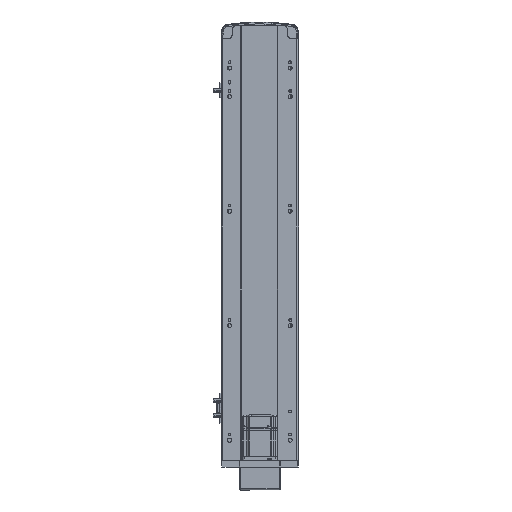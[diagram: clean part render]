
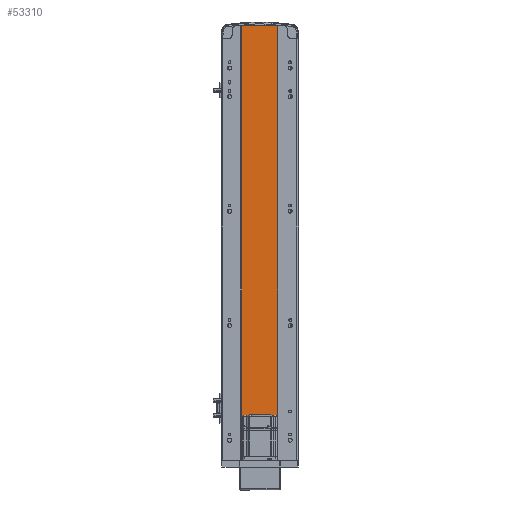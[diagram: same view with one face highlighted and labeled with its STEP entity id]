
A CAD part, front view. The second image highlights one B-rep face of the part: STEP entity #53310.
In plain terms, the highlighted planar face has unit normal (0, -1, 0).
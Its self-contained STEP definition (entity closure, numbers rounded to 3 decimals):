
#625 = VECTOR ( 'NONE', #13084, 1000. ) ;
#4977 = CARTESIAN_POINT ( 'NONE',  ( -32., 1., 0. ) ) ;
#6230 = LINE ( 'NONE', #4977, #625 ) ;
#7583 = VERTEX_POINT ( 'NONE', #28047 ) ;
#11243 = LINE ( 'NONE', #12385, #36284 ) ;
#11684 = EDGE_CURVE ( 'NONE', #7583, #13747, #6230, .T. ) ;
#12385 = CARTESIAN_POINT ( 'NONE',  ( -32., 1., 759. ) ) ;
#12706 = LINE ( 'NONE', #45837, #50248 ) ;
#13084 = DIRECTION ( 'NONE',  ( 1., 0., 0. ) ) ;
#13747 = VERTEX_POINT ( 'NONE', #31728 ) ;
#15433 = DIRECTION ( 'NONE',  ( 0., 1., 0. ) ) ;
#16806 = CARTESIAN_POINT ( 'NONE',  ( -32., 1., 759. ) ) ;
#16893 = VECTOR ( 'NONE', #47886, 1000. ) ;
#18932 = EDGE_CURVE ( 'NONE', #49795, #48637, #54458, .T. ) ;
#20739 = DIRECTION ( 'NONE',  ( 0., 0., -1. ) ) ;
#22635 = DIRECTION ( 'NONE',  ( 0., 0., -1. ) ) ;
#23215 = EDGE_LOOP ( 'NONE', ( #31219, #46378, #49421, #47841 ) ) ;
#25942 = FACE_OUTER_BOUND ( 'NONE', #23215, .T. ) ;
#28047 = CARTESIAN_POINT ( 'NONE',  ( -32., 1., 0. ) ) ;
#28988 = CARTESIAN_POINT ( 'NONE',  ( -32., 1., 759. ) ) ;
#31219 = ORIENTED_EDGE ( 'NONE', *, *, #11684, .T. ) ;
#31728 = CARTESIAN_POINT ( 'NONE',  ( 30., 1., 0. ) ) ;
#33959 = AXIS2_PLACEMENT_3D ( 'NONE', #28988, #15433, #41658 ) ;
#34263 = CARTESIAN_POINT ( 'NONE',  ( 30., 1., 759. ) ) ;
#36284 = VECTOR ( 'NONE', #20739, 1000. ) ;
#40419 = EDGE_CURVE ( 'NONE', #49795, #7583, #11243, .T. ) ;
#41658 = DIRECTION ( 'NONE',  ( -1., 0., 0. ) ) ;
#45837 = CARTESIAN_POINT ( 'NONE',  ( 30., 1., 759. ) ) ;
#46378 = ORIENTED_EDGE ( 'NONE', *, *, #50099, .F. ) ;
#47841 = ORIENTED_EDGE ( 'NONE', *, *, #40419, .T. ) ;
#47886 = DIRECTION ( 'NONE',  ( 1., 0., 0. ) ) ;
#48637 = VERTEX_POINT ( 'NONE', #34263 ) ;
#48683 = CARTESIAN_POINT ( 'NONE',  ( -32., 1., 759. ) ) ;
#49421 = ORIENTED_EDGE ( 'NONE', *, *, #18932, .F. ) ;
#49795 = VERTEX_POINT ( 'NONE', #48683 ) ;
#50099 = EDGE_CURVE ( 'NONE', #48637, #13747, #12706, .T. ) ;
#50248 = VECTOR ( 'NONE', #22635, 1000. ) ;
#50976 = PLANE ( 'NONE',  #33959 ) ;
#53310 = ADVANCED_FACE ( 'NONE', ( #25942 ), #50976, .F. ) ;
#54458 = LINE ( 'NONE', #16806, #16893 ) ;
